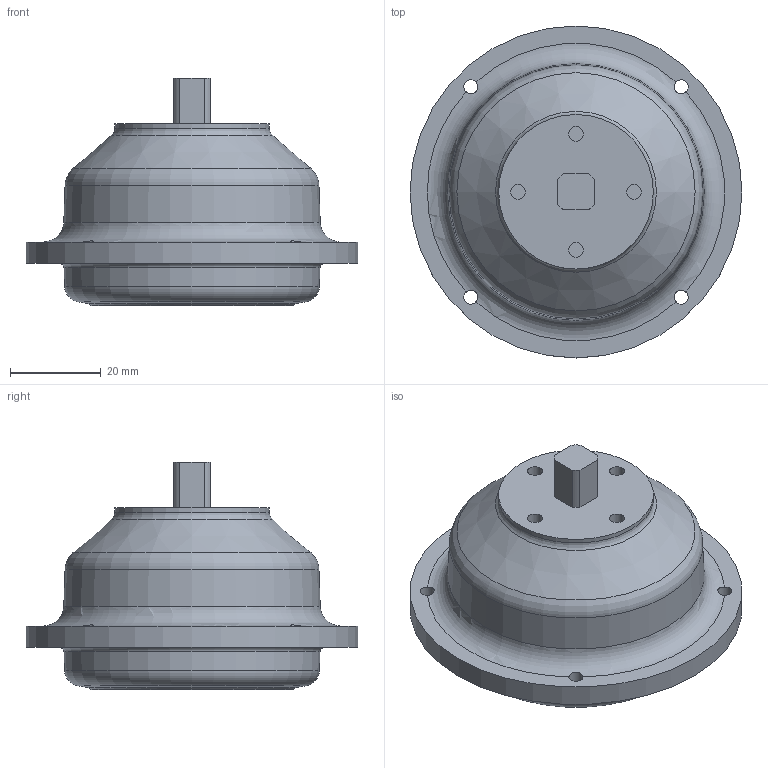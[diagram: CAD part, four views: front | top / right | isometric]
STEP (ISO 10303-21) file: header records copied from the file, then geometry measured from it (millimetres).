
FILE_DESCRIPTION( ( 'Unknown' ), '1' );
FILE_NAME( 'H:/3D Models for Customers/Spring Return/024-020 024-030/024-020 024-030.stp', 'Unknown', ( 'Unknown' ), ( 'Unknown' ), 'PSStep 10.1', 'Unknown', ' ' );
FILE_SCHEMA( ( 'AUTOMOTIVE_DESIGN { 1 0 10303 214 1 1 1 1 }' ) );
Length unit declared in the file: millimetre
Products named in the file (1): 1
Bounding box: 73 x 73 x 50 mm (x, y, z)
Volume: 94606.6 mm3; surface area: 15007.9 mm2
Topology: 1 solids, 1 shells, 50 faces, 111 edges, 71 vertices
Faces by surface type: plane 22, cylinder 18, torus 6, cone 4
Full cylindrical faces by diameter (mm): 3.1 x4, 3.242 x4, 4 x4, 34 x1, 73 x1
Entity records: 1760 total; most frequent: CARTESIAN_POINT 307, DIRECTION 230, ORIENTED_EDGE 164, AXIS2_PLACEMENT_3D 101, EDGE_LOOP 90, EDGE_CURVE 82, FACE_OUTER_BOUND 70, VERTEX_POINT 66
